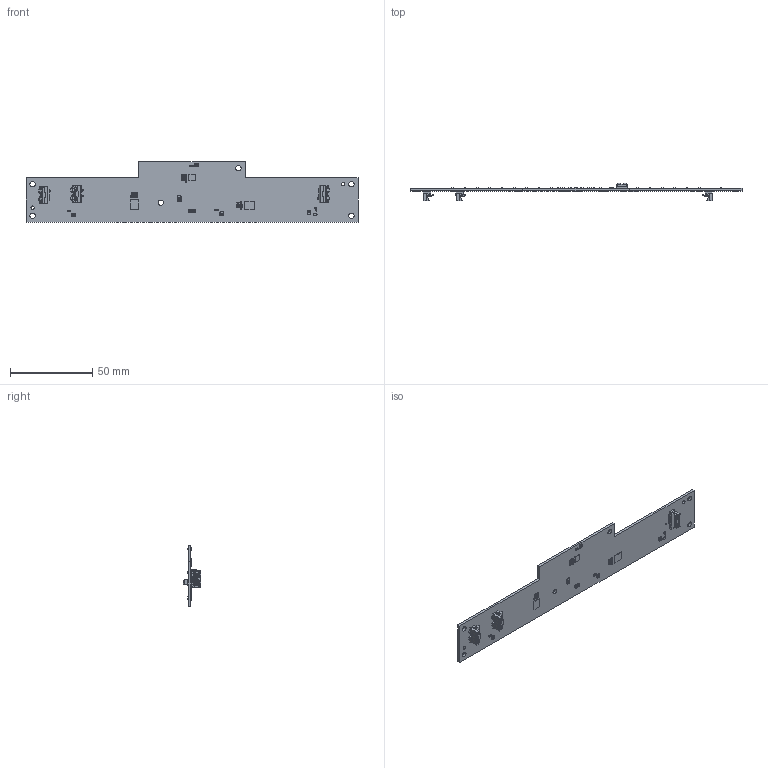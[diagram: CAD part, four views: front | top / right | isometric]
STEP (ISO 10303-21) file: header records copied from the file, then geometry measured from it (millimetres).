
FILE_DESCRIPTION((''),'2;1');
FILE_NAME('LED_PCB_ASSY_ASM','2020-12-01T',('g6007893'),(''),'PRO/ENGINEER BY PARAMETRIC TECHNOLOGY CORPORATION, 2013320','PRO/ENGINEER BY PARAMETRIC TECHNOLOGY CORPORATION, 2013320','');
FILE_SCHEMA(('AUTOMOTIVE_DESIGN { 1 0 10303 214 1 1 1 1 }'));
Products named in the file (16): LED_PCB; LED_EVERLIGHT_R6GHY5C_1_1_1; LP5024-DRIVER-IC; LP5036-DRIVER-IC; IR_RECEIVER; 5022311500; CAVITY_NUMBERS0; C-0402S0; C-0201S1; R-0402S0; C-0402A; R-0603S0; 96_1515T00-025-1201-1111_BOTTOM; 96_1515T00-025-1201-1111_TOP; 96_1515T00-025-1201-1111_ASM; LED_PCB_ASSY_ASM
Assembly tree (98 placements, depth 3):
  LED_PCB_ASSY_ASM
    LED_PCB
    LED_EVERLIGHT_R6GHY5C_1_1_1  x26
    LP5024-DRIVER-IC
    LP5036-DRIVER-IC  x2
    IR_RECEIVER
    5022311500  x3
    96_1515T00-025-1201-1111_ASM
      CAVITY_NUMBERS0
      C-0402S0
      C-0201S1  x15
      R-0402S0  x25
      C-0402A
      R-0603S0  x18
      96_1515T00-025-1201-1111_BOTTOM
      96_1515T00-025-1201-1111_TOP
Bounding box: 202 x 10.85 x 37 mm (x, y, z)
Volume: 10271.4 mm3; surface area: 15761.3 mm2
Topology: 95 solids, 95 shells, 5445 faces, 28048 edges, 30091 vertices
Faces by surface type: plane 4799, cylinder 642, sphere 4
Entity records: 139823 total; most frequent: DIRECTION 18831, CARTESIAN_POINT 18449, VECTOR 13219, LINE 13219, PRESENTATION_STYLE_ASSIGNMENT 12000, STYLED_ITEM 12000, CURVE_STYLE 11989, TRIMMED_CURVE 11230
